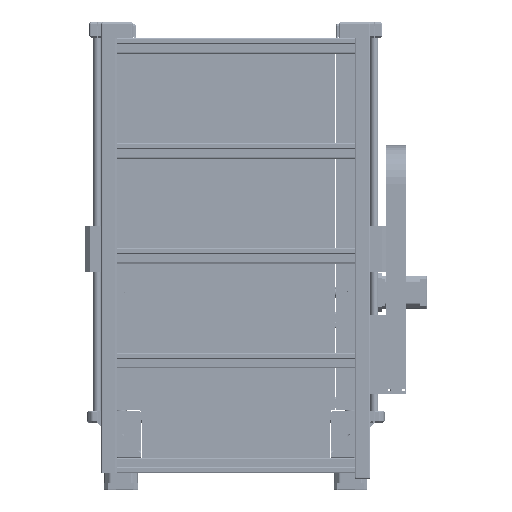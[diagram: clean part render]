
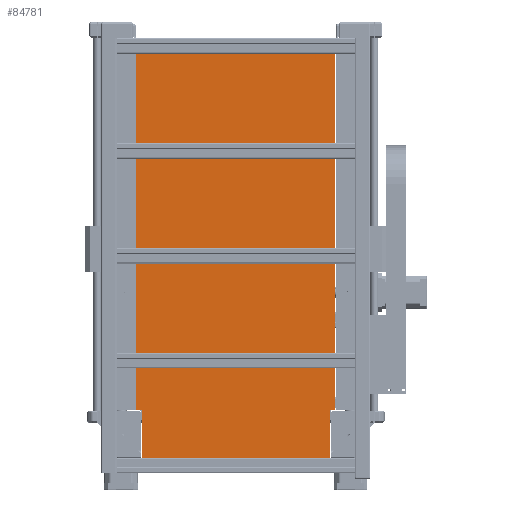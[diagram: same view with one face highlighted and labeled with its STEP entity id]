
A CAD part, front view. The second image highlights one B-rep face of the part: STEP entity #84781.
In plain terms, the highlighted planar face has unit normal (0, -1, 0).
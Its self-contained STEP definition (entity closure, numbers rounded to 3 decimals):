
#21 = DIRECTION ( 'NONE',  ( -1., 0., 0. ) ) ;
#2328 = EDGE_CURVE ( 'NONE', #109166, #256134, #186900, .T. ) ;
#6183 = VERTEX_POINT ( 'NONE', #219273 ) ;
#15806 = CARTESIAN_POINT ( 'NONE',  ( 0., 10., 0. ) ) ;
#18458 = ORIENTED_EDGE ( 'NONE', *, *, #222522, .F. ) ;
#25457 = EDGE_CURVE ( 'NONE', #6183, #70266, #134934, .T. ) ;
#29390 = EDGE_CURVE ( 'NONE', #33626, #6183, #56647, .T. ) ;
#33626 = VERTEX_POINT ( 'NONE', #154790 ) ;
#41798 = PLANE ( 'NONE',  #66152 ) ;
#48058 = CARTESIAN_POINT ( 'NONE',  ( 279., 10., -220. ) ) ;
#52463 = VECTOR ( 'NONE', #125659, 1000. ) ;
#56647 = LINE ( 'NONE', #244972, #52463 ) ;
#64789 = DIRECTION ( 'NONE',  ( 0., 0., 1. ) ) ;
#66152 = AXIS2_PLACEMENT_3D ( 'NONE', #15806, #84751, #64789 ) ;
#69202 = VECTOR ( 'NONE', #228264, 1000. ) ;
#70266 = VERTEX_POINT ( 'NONE', #48058 ) ;
#74694 = ORIENTED_EDGE ( 'NONE', *, *, #25457, .F. ) ;
#82713 = CARTESIAN_POINT ( 'NONE',  ( 41., 10., -220. ) ) ;
#83253 = CARTESIAN_POINT ( 'NONE',  ( 34.5, 10., 250. ) ) ;
#84751 = DIRECTION ( 'NONE',  ( 0., 1., 0. ) ) ;
#84781 = ADVANCED_FACE ( 'NONE', ( #292976 ), #41798, .F. ) ;
#92907 = EDGE_LOOP ( 'NONE', ( #192536, #187266, #213280, #122743, #18458, #96762, #234200, #74694 ) ) ;
#96762 = ORIENTED_EDGE ( 'NONE', *, *, #155838, .F. ) ;
#101399 = VERTEX_POINT ( 'NONE', #199896 ) ;
#108705 = DIRECTION ( 'NONE',  ( 0., 0., 1. ) ) ;
#109166 = VERTEX_POINT ( 'NONE', #155006 ) ;
#122743 = ORIENTED_EDGE ( 'NONE', *, *, #2328, .F. ) ;
#124439 = CARTESIAN_POINT ( 'NONE',  ( 34.5, 10., -220. ) ) ;
#125444 = CARTESIAN_POINT ( 'NONE',  ( 34.5, 10., -220. ) ) ;
#125659 = DIRECTION ( 'NONE',  ( 0., 0., -1. ) ) ;
#129511 = LINE ( 'NONE', #222866, #256492 ) ;
#133108 = VECTOR ( 'NONE', #154469, 1000. ) ;
#134934 = LINE ( 'NONE', #301673, #69202 ) ;
#143824 = VECTOR ( 'NONE', #215630, 1000. ) ;
#147420 = LINE ( 'NONE', #124439, #263850 ) ;
#154469 = DIRECTION ( 'NONE',  ( -1., 0., 0. ) ) ;
#154790 = CARTESIAN_POINT ( 'NONE',  ( 285.5, 10., 250. ) ) ;
#155006 = CARTESIAN_POINT ( 'NONE',  ( 41., 10., -220. ) ) ;
#155838 = EDGE_CURVE ( 'NONE', #233903, #101399, #292216, .T. ) ;
#186900 = LINE ( 'NONE', #254236, #262928 ) ;
#187266 = ORIENTED_EDGE ( 'NONE', *, *, #297446, .F. ) ;
#192536 = ORIENTED_EDGE ( 'NONE', *, *, #29390, .F. ) ;
#199896 = CARTESIAN_POINT ( 'NONE',  ( 41., 10., -300. ) ) ;
#200893 = DIRECTION ( 'NONE',  ( 0., 0., 1. ) ) ;
#201913 = CARTESIAN_POINT ( 'NONE',  ( 41., 10., -300. ) ) ;
#204459 = DIRECTION ( 'NONE',  ( 0., 0., -1. ) ) ;
#210749 = VERTEX_POINT ( 'NONE', #83253 ) ;
#213280 = ORIENTED_EDGE ( 'NONE', *, *, #246665, .F. ) ;
#215630 = DIRECTION ( 'NONE',  ( 1., 0., 0. ) ) ;
#218503 = CARTESIAN_POINT ( 'NONE',  ( 279., 10., -300. ) ) ;
#219273 = CARTESIAN_POINT ( 'NONE',  ( 285.5, 10., -220. ) ) ;
#222522 = EDGE_CURVE ( 'NONE', #101399, #109166, #292458, .T. ) ;
#222866 = CARTESIAN_POINT ( 'NONE',  ( 279., 10., -220. ) ) ;
#228264 = DIRECTION ( 'NONE',  ( -1., 0., 0. ) ) ;
#233903 = VERTEX_POINT ( 'NONE', #218503 ) ;
#234200 = ORIENTED_EDGE ( 'NONE', *, *, #300224, .F. ) ;
#235567 = VECTOR ( 'NONE', #108705, 1000. ) ;
#238506 = CARTESIAN_POINT ( 'NONE',  ( 34.5, 10., 250. ) ) ;
#244972 = CARTESIAN_POINT ( 'NONE',  ( 285.5, 10., -220. ) ) ;
#246665 = EDGE_CURVE ( 'NONE', #256134, #210749, #147420, .T. ) ;
#254236 = CARTESIAN_POINT ( 'NONE',  ( 34.5, 10., -220. ) ) ;
#256134 = VERTEX_POINT ( 'NONE', #125444 ) ;
#256492 = VECTOR ( 'NONE', #204459, 1000. ) ;
#262928 = VECTOR ( 'NONE', #21, 1000. ) ;
#263850 = VECTOR ( 'NONE', #200893, 1000. ) ;
#264492 = LINE ( 'NONE', #238506, #143824 ) ;
#292216 = LINE ( 'NONE', #201913, #133108 ) ;
#292458 = LINE ( 'NONE', #82713, #235567 ) ;
#292976 = FACE_OUTER_BOUND ( 'NONE', #92907, .T. ) ;
#297446 = EDGE_CURVE ( 'NONE', #210749, #33626, #264492, .T. ) ;
#300224 = EDGE_CURVE ( 'NONE', #70266, #233903, #129511, .T. ) ;
#301673 = CARTESIAN_POINT ( 'NONE',  ( 285.5, 10., -220. ) ) ;
